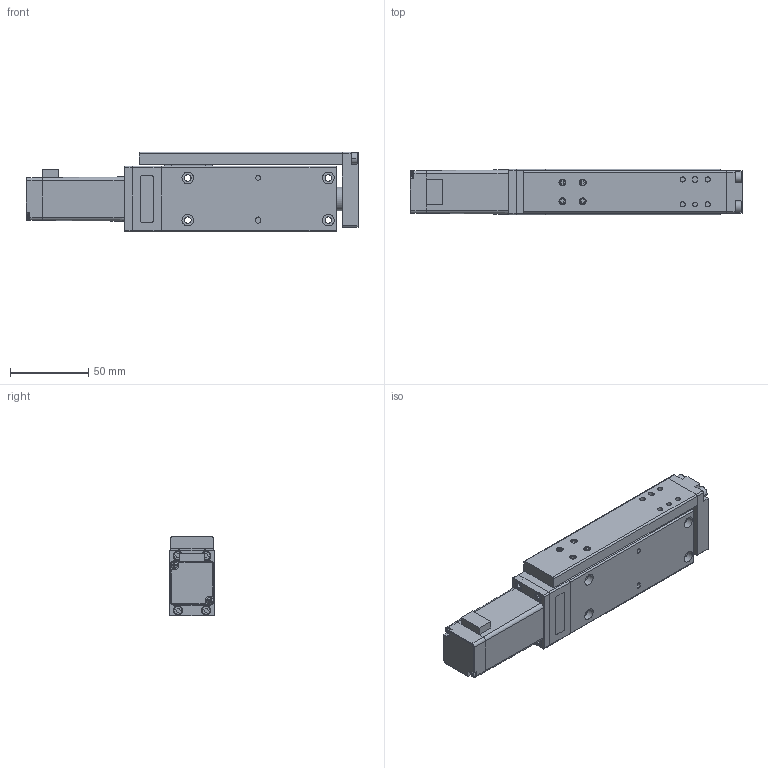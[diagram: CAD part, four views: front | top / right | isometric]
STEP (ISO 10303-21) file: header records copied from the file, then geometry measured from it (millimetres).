
FILE_DESCRIPTION (( 'STEP AP203' ), '1' );
FILE_NAME ('SSA16（ST=75）外形尺寸.STEP', '2024-11-13T09:12:04', ( '微软用户' ), ( '微软中国' ), 'SwSTEP 2.0', 'SolidWorks 2018', '' );
FILE_SCHEMA (( 'CONFIG_CONTROL_DESIGN' ));
Length unit declared in the file: millimetre
Products named in the file (13): 复件 内六角杯头螺钉M4-10^SSA16（ST=75）外形尺寸; 复件 SVS-24SSA16-P002  空心圆杆 (ST=75)^SSA16（ST=75）外形尺寸; 复件 内六角杯头螺钉M3-8^SSA16（ST=75）外形尺寸; 复件 SVS-24SSA16-P004  MOTOR PLATE^SSA16（ST=75）外形尺寸; 复件 内六角杯头螺钉M2-6^SSA16（ST=75）外形尺寸; 复件 SVS-24SSA16-P005  电机座^SSA16（ST=75）外形尺寸; SSA16（ST=75）外形尺寸; 复件 SVS-24SSA16-P006  安装板^SSA16（ST=75）外形尺寸; 复件 SVS-24SSA16-P007-03  滑台板（ST=75）^SSA16（ST=75）外形尺寸; 复件 SVS-24SSA16-B002  RAIL（润扬：RN7-长度）ST=75^SSA16（ST=75）外形尺寸; 复件 SVS-24SSA16-B002  BLOCK（润扬：RN7H）^SSA16（ST=75）外形尺寸; 复件 (2) 28闭环步进电机-客用3D^SSA16（ST=75）外形尺寸; 复件 SVS-24SSA16-P001-03  FRAME（ST=75）^SSA16（ST=75）外形尺寸
Assembly tree (27 placements, depth 2):
  SSA16（ST=75）外形尺寸
    复件 SVS-24SSA16-P001-03  FRAME（ST=75）^SSA16（ST=75）外形尺寸
    复件 SVS-24SSA16-P002  空心圆杆 (ST=75)^SSA16（ST=75）外形尺寸
    复件 SVS-24SSA16-P004  MOTOR PLATE^SSA16（ST=75）外形尺寸
    复件 SVS-24SSA16-P005  电机座^SSA16（ST=75）外形尺寸
    复件 SVS-24SSA16-P006  安装板^SSA16（ST=75）外形尺寸
    复件 SVS-24SSA16-P007-03  滑台板（ST=75）^SSA16（ST=75）外形尺寸
    复件 SVS-24SSA16-B002  RAIL（润扬：RN7-长度）ST=75^SSA16（ST=75）外形尺寸
    复件 SVS-24SSA16-B002  BLOCK（润扬：RN7H）^SSA16（ST=75）外形尺寸
    复件 (2) 28闭环步进电机-客用3D^SSA16（ST=75）外形尺寸
    复件 内六角杯头螺钉M4-10^SSA16（ST=75）外形尺寸  x3
    复件 内六角杯头螺钉M3-8^SSA16（ST=75）外形尺寸  x4
    复件 内六角杯头螺钉M2-6^SSA16（ST=75）外形尺寸  x11
Bounding box: 212.6 x 29 x 51 mm (x, y, z)
Volume: 248569.9 mm3; surface area: 63795.9 mm2
Topology: 29 solids, 29 shells, 917 faces, 2162 edges, 1352 vertices
Faces by surface type: plane 389, cylinder 339, cone 107, torus 74, bspline 8
Entity records: 20477 total; most frequent: CARTESIAN_POINT 3643, DIRECTION 3343, ORIENTED_EDGE 2964, EDGE_CURVE 1482, AXIS2_PLACEMENT_3D 1271, VERTEX_POINT 962, VECTOR 801, LINE 801
